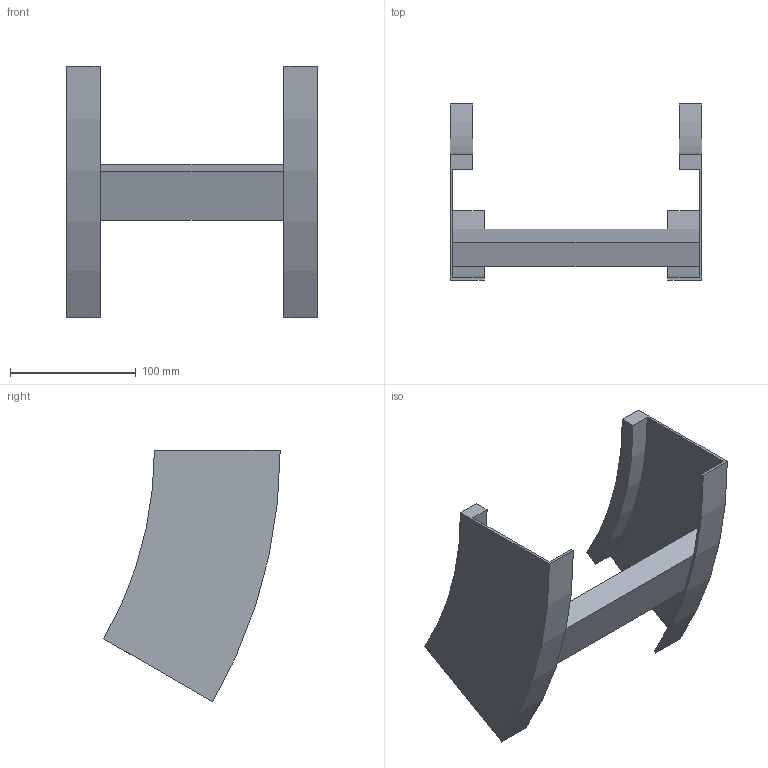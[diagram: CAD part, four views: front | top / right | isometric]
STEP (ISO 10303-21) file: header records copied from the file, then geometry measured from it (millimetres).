
FILE_DESCRIPTION (( 'STEP AP214' ), '1' );
FILE_NAME ('B2X32B3D200XX.step', '2025-03-20T09:58:01', ( '' ), ( '' ), 'SwSTEP 2.0', 'SolidWorks 2023', '' );
FILE_SCHEMA (( 'AUTOMOTIVE_DESIGN' ));
Length unit declared in the file: millimetre
Products named in the file (3): B2X32B3D200XX; TRAVERSINO_200; B2_LONGH.SALITA_30°_H100_R300
Assembly tree (3 placements, depth 2):
  B2X32B3D200XX
    B2_LONGH.SALITA_30°_H100_R300  x2
    TRAVERSINO_200
Bounding box: 200 x 140.19 x 200 mm (x, y, z)
Volume: 314480.4 mm3; surface area: 133019.7 mm2
Topology: 3 solids, 3 shells, 26 faces, 60 edges, 40 vertices
Faces by surface type: plane 18, cylinder 8
Entity records: 544 total; most frequent: DIRECTION 88, CARTESIAN_POINT 82, ORIENTED_EDGE 72, EDGE_CURVE 36, AXIS2_PLACEMENT_3D 30, LINE 28, VECTOR 28, VERTEX_POINT 24
